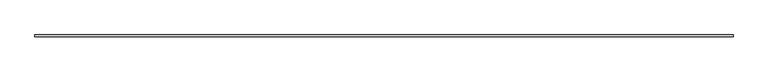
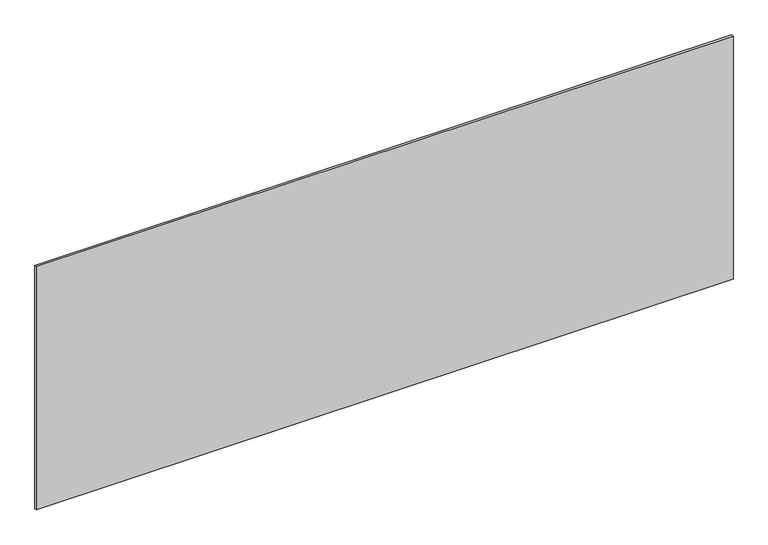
"""IFC4 building model written with IfcOpenShell, lengths in millimetres: plate geometry, システム パネル : 標準."""

from ifc_helpers import new_model, si_unit, origin, origin_with_axes, place, context, project, spatial, polyline, outline, extrude, source, transform, mapped, element, save


def plate_98c14705(model_context):
    return source(origin(), model_context, "Body", "SweptSolid", [
        extrude(outline(polyline([(1715.0, -5.0), (-1715.0, -5.0), (-1715.0, 5.0), (1715.0, 5.0), (1715.0, -5.0)])), origin_with_axes(), (0.0, 0.0, 1.0), 1265.8860683),
    ])


if __name__ == "__main__":
    model = new_model("IFC4")
    model_context = context("Model", 3, world=origin())
    ifc_project = project(units=[si_unit("LENGTHUNIT", "METRE", prefix="MILLI")], contexts=[model_context])
    site = spatial("IfcSite", under=ifc_project)
    building = spatial("IfcBuilding", under=site)
    placement = place(None, origin())
    plate_shape = plate_98c14705(model_context)
    element("IfcPlate", 1, ObjectType="システム パネル : 標準", at=placement, inside=building, context=model_context, shape_type="MappedRepresentation", body=[
        mapped(plate_shape, transform((0.0, 0.0, 0.0), x_axis=(1.0, 0.0, 0.0), y_axis=(0.0, 1.0, 0.0), z_axis=(0.0, 0.0, 1.0))),
    ])
    save(model, "model.ifc")
